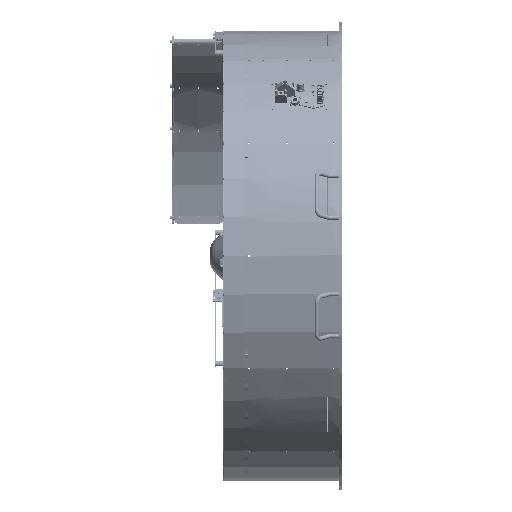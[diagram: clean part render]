
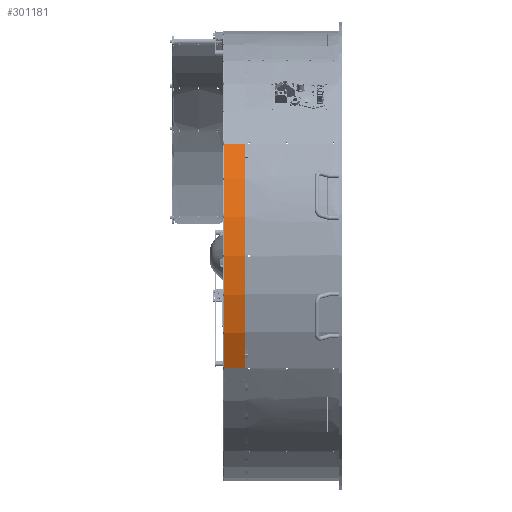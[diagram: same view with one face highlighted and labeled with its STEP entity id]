
A CAD part, left-side view. The second image highlights one B-rep face of the part: STEP entity #301181.
In plain terms, the highlighted cylindrical face has radius 620 mm (diameter 1240 mm), a partial arc.
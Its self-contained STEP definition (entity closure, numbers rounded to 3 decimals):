
#4414 = ORIENTED_EDGE ( 'NONE', *, *, #372124, .T. ) ;
#23335 = DIRECTION ( 'NONE',  ( 0., 0., -1. ) ) ;
#27032 = DIRECTION ( 'NONE',  ( -1., 0., 0. ) ) ;
#51024 = AXIS2_PLACEMENT_3D ( 'NONE', #447497, #246016, #88799 ) ;
#55898 = VERTEX_POINT ( 'NONE', #368487 ) ;
#60085 = CARTESIAN_POINT ( 'NONE',  ( 310., -536.936, 60. ) ) ;
#62684 = VERTEX_POINT ( 'NONE', #428014 ) ;
#85905 = LINE ( 'NONE', #114902, #384753 ) ;
#88799 = DIRECTION ( 'NONE',  ( 1., 0., 0. ) ) ;
#95797 = VERTEX_POINT ( 'NONE', #348058 ) ;
#103099 = FACE_OUTER_BOUND ( 'NONE', #285971, .T. ) ;
#114902 = CARTESIAN_POINT ( 'NONE',  ( 620., 0., 60. ) ) ;
#132201 = ORIENTED_EDGE ( 'NONE', *, *, #344069, .F. ) ;
#166158 = ORIENTED_EDGE ( 'NONE', *, *, #198758, .T. ) ;
#198758 = EDGE_CURVE ( 'NONE', #95797, #440370, #423908, .T. ) ;
#206464 = AXIS2_PLACEMENT_3D ( 'NONE', #278990, #360117, #281595 ) ;
#246016 = DIRECTION ( 'NONE',  ( 0., 0., -1. ) ) ;
#262837 = CYLINDRICAL_SURFACE ( 'NONE', #457772, 620. ) ;
#278990 = CARTESIAN_POINT ( 'NONE',  ( 0., 0., 1. ) ) ;
#281595 = DIRECTION ( 'NONE',  ( 1., 0., 0. ) ) ;
#285971 = EDGE_LOOP ( 'NONE', ( #132201, #4414, #166158, #485101 ) ) ;
#301181 = ADVANCED_FACE ( 'NONE', ( #103099 ), #262837, .T. ) ;
#323477 = CIRCLE ( 'NONE', #206464, 620. ) ;
#344069 = EDGE_CURVE ( 'NONE', #55898, #62684, #85905, .T. ) ;
#348058 = CARTESIAN_POINT ( 'NONE',  ( 310., -536.936, 59. ) ) ;
#360117 = DIRECTION ( 'NONE',  ( 0., 0., 1. ) ) ;
#367088 = VECTOR ( 'NONE', #23335, 1000. ) ;
#368487 = CARTESIAN_POINT ( 'NONE',  ( 620., 0., 59. ) ) ;
#372124 = EDGE_CURVE ( 'NONE', #55898, #95797, #402385, .T. ) ;
#384753 = VECTOR ( 'NONE', #436845, 1000. ) ;
#386263 = EDGE_CURVE ( 'NONE', #440370, #62684, #323477, .T. ) ;
#402385 = CIRCLE ( 'NONE', #51024, 620. ) ;
#411113 = CARTESIAN_POINT ( 'NONE',  ( 310., -536.936, 1. ) ) ;
#423908 = LINE ( 'NONE', #60085, #367088 ) ;
#425047 = DIRECTION ( 'NONE',  ( 0., 0., -1. ) ) ;
#428014 = CARTESIAN_POINT ( 'NONE',  ( 620., 0., 1. ) ) ;
#436845 = DIRECTION ( 'NONE',  ( 0., 0., -1. ) ) ;
#440370 = VERTEX_POINT ( 'NONE', #411113 ) ;
#447497 = CARTESIAN_POINT ( 'NONE',  ( 0., 0., 59. ) ) ;
#457772 = AXIS2_PLACEMENT_3D ( 'NONE', #495942, #425047, #27032 ) ;
#485101 = ORIENTED_EDGE ( 'NONE', *, *, #386263, .T. ) ;
#495942 = CARTESIAN_POINT ( 'NONE',  ( 0., 0., 60. ) ) ;
